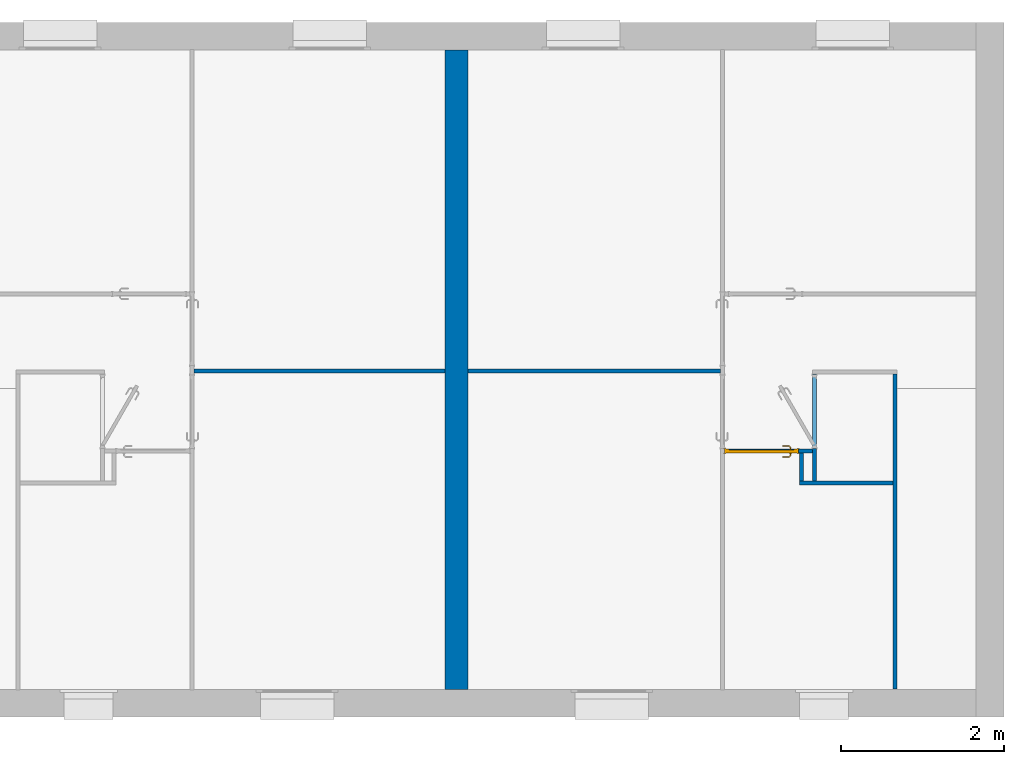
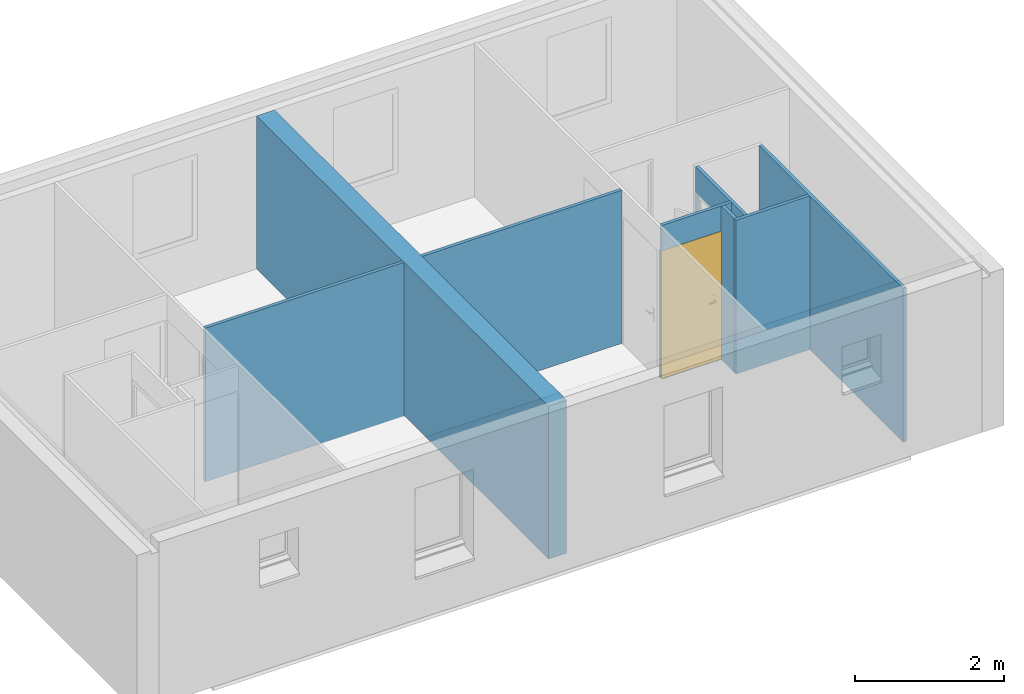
# One storey, part 7 of 13: 8 walls, 1 door, 2 openings.
"""IFC2X3 building model written with IfcOpenShell, lengths in metres."""

from ifc_helpers import new_model, entity, si_unit, converted_unit, derived_unit, direction, frame, frame_2d, origin, place, context, subcontext, project, spatial, rectangle, extrude, faceted_brep, source, transform, mapped, material, material_list, layer, layer_set, layer_usage, type_object, type_shapes, element, fill, save


model = new_model("IFC2X3")

# Units and contexts
model_context = context("Model", 3, precision=1e-05, world=origin(), true_north=direction((6.12303176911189e-17, 1.0)))
body_context = subcontext(model_context, "Body", "Model", "MODEL_VIEW")
ifc_project = project(units=[si_unit("LENGTHUNIT", "METRE"), si_unit("AREAUNIT", "SQUARE_METRE"), si_unit("VOLUMEUNIT", "CUBIC_METRE"), converted_unit("PLANEANGLEUNIT", "DEGREE", entity("IfcRatioMeasure", 0.0174532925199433), si_unit("PLANEANGLEUNIT", "RADIAN"), dimensions=[0, 0, 0, 0, 0, 0, 0]), si_unit("MASSUNIT", "GRAM", prefix="KILO"), si_unit("TIMEUNIT", "SECOND"), si_unit("FREQUENCYUNIT", "HERTZ"), si_unit("THERMODYNAMICTEMPERATUREUNIT", "DEGREE_CELSIUS"), derived_unit("THERMALTRANSMITTANCEUNIT", [(si_unit("MASSUNIT", "GRAM", prefix="KILO"), 1), (si_unit("THERMODYNAMICTEMPERATUREUNIT", "KELVIN"), -1), (si_unit("TIMEUNIT", "SECOND"), -3)]), derived_unit("VOLUMETRICFLOWRATEUNIT", [(si_unit("LENGTHUNIT", "METRE"), 3), (si_unit("TIMEUNIT", "SECOND"), -1)]), si_unit("ELECTRICCURRENTUNIT", "AMPERE"), si_unit("ELECTRICVOLTAGEUNIT", "VOLT"), si_unit("POWERUNIT", "WATT"), si_unit("FORCEUNIT", "NEWTON", prefix="KILO"), si_unit("ILLUMINANCEUNIT", "LUX"), si_unit("LUMINOUSFLUXUNIT", "LUMEN"), si_unit("LUMINOUSINTENSITYUNIT", "CANDELA"), derived_unit("USERDEFINED", [(si_unit("MASSUNIT", "GRAM", prefix="KILO"), -1), (si_unit("LENGTHUNIT", "METRE"), -2), (si_unit("TIMEUNIT", "SECOND"), 3), (si_unit("LUMINOUSFLUXUNIT", "LUMEN"), 1)]), derived_unit("LINEARVELOCITYUNIT", [(si_unit("LENGTHUNIT", "METRE"), 1), (si_unit("TIMEUNIT", "SECOND"), -1)]), si_unit("PRESSUREUNIT", "PASCAL"), derived_unit("USERDEFINED", [(si_unit("LENGTHUNIT", "METRE"), -2), (si_unit("MASSUNIT", "GRAM", prefix="KILO"), 1), (si_unit("TIMEUNIT", "SECOND"), -2)])], contexts=[model_context])

# Site, building, storey
site_placement = place(None, origin())
site = spatial("IfcSite", under=ifc_project, at=site_placement, Name="Surface", CompositionType="ELEMENT")
building_placement = place(site_placement, origin())
building = spatial("IfcBuilding", under=site, at=building_placement, CompositionType="ELEMENT")
storey_placement = place(building_placement, frame((0.0, 0.0, 2.74)))
storey = spatial("IfcBuildingStorey", under=building, at=storey_placement, Name="Plan étage", CompositionType="ELEMENT", Elevation=2.74)

# Walls
ifc_material_1 = material(Name="Maçonnerie - Isolant(1)")
ifc_layer_1 = layer(ifc_material_1, 0.05)
ifc_layer_set_1 = layer_set([ifc_layer_1], Name="Mur de base:Int. plâtre 50 mm")
ifc_layer_usage_1 = layer_usage(ifc_layer_set_1, "AXIS2", "NEGATIVE", 0.025)
wall_type_1 = type_object("IfcWallType", Name="Mur de base:Int. plâtre 50 mm", PredefinedType="STANDARD", material=ifc_layer_set_1)
wall_1_placement = place(storey_placement, frame((-8.14608881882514, 1.41925578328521, -0.00999999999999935)))
element("IfcWallStandardCase", 1, at=wall_1_placement, inside=storey, type_object=wall_type_1, material=ifc_layer_usage_1, Name="Mur de base:Int. plâtre 50 mm", ObjectType="Mur de base:Int. plâtre 50 mm", context=body_context, shape_type="SweptSolid", body=[
    extrude(rectangle(XDim=3.07000000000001, YDim=0.05, at=frame_2d((1.53500000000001, 0.0), x_axis=(-1.0, 0.0))), origin(), (0.0, 0.0, 1.0), 2.51),
])
ifc_layer_usage_2 = layer_usage(ifc_layer_set_1, "AXIS2", "NEGATIVE", 0.025)
wall_2_placement = place(storey_placement, frame((0.403911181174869, 0.0492557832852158, -0.00999999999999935), z_axis=(0.0, 0.0, 1.0), x_axis=(-1.0, 0.0, 0.0)))
element("IfcWallStandardCase", 2, at=wall_2_placement, inside=storey, type_object=wall_type_1, material=ifc_layer_usage_2, Name="Mur de base:Int. plâtre 50 mm", ObjectType="Mur de base:Int. plâtre 50 mm", context=body_context, shape_type="SweptSolid", body=[
    extrude(rectangle(XDim=1.14499999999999, YDim=0.05, at=frame_2d((0.572499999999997, 0.0), x_axis=(-1.0, 0.0))), origin(), (0.0, 0.0, 1.0), 2.51),
])
ifc_layer_usage_3 = layer_usage(ifc_layer_set_1, "AXIS2", "NEGATIVE", 0.025)
wall_3_placement = place(storey_placement, frame((-4.79608881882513, 1.41925578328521, 0.0)))
element("IfcWallStandardCase", 3, at=wall_3_placement, inside=storey, type_object=wall_type_1, material=ifc_layer_usage_3, Name="Mur de base:Int. plâtre 50 mm", ObjectType="Mur de base:Int. plâtre 50 mm", context=body_context, shape_type="SweptSolid", body=[
    extrude(rectangle(XDim=3.09000000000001, YDim=0.05, at=frame_2d((1.545, 0.0), x_axis=(-1.0, 0.0))), origin(), (0.0, 0.0, 1.0), 2.5),
])
ifc_layer_usage_4 = layer_usage(ifc_layer_set_1, "AXIS2", "NEGATIVE", 0.025)
wall_4_placement = place(storey_placement, frame((0.428911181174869, 1.38425578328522, -0.00999999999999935), z_axis=(0.0, 0.0, 1.0), x_axis=(0.0, -1.0, 0.0)))
element("IfcWallStandardCase", 4, at=wall_4_placement, inside=storey, type_object=wall_type_1, material=ifc_layer_usage_4, Name="Mur de base:Int. plâtre 50 mm", ObjectType="Mur de base:Int. plâtre 50 mm", context=body_context, shape_type="SweptSolid", body=[
    extrude(rectangle(XDim=3.855, YDim=0.05, at=frame_2d((1.9275, 0.0), x_axis=(-1.0, 0.0))), origin(), (0.0, 0.0, 1.0), 2.51),
])

# Wall, opening
ifc_layer_usage_5 = layer_usage(ifc_layer_set_1, "AXIS2", "NEGATIVE", 0.025)
wall_5_placement = place(storey_placement, frame((-0.556088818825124, 0.0742557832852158, -0.00999999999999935), z_axis=(0.0, 0.0, 1.0), x_axis=(0.0, 1.0, 0.0)))
wall_5 = element("IfcWallStandardCase", 5, at=wall_5_placement, inside=storey, type_object=wall_type_1, material=ifc_layer_usage_5, Name="Mur de base:Int. plâtre 50 mm", ObjectType="Mur de base:Int. plâtre 50 mm", context=body_context, shape_type="SweptSolid", body=[
    extrude(rectangle(XDim=1.31, YDim=0.05, at=frame_2d((0.655000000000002, 0.0), x_axis=(-1.0, 0.0))), origin(), (0.0, 0.0, 1.0), 2.51),
])
opening_1_placement = place(wall_5_placement, frame((0.400000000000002, -0.025, 0.00999999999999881)))
element("IfcOpeningElement", 6, at=opening_1_placement, cuts=wall_5, Name="Int. Simple:PP (0.83m x 2.04m):1", ObjectType="Opening", context=body_context, shape_type="SweptSolid", body=[
    extrude(rectangle(XDim=2.075, YDim=0.9, at=frame_2d((1.0375, 0.45), x_axis=(1.0, 0.0))), frame((0.0, 0.0, 0.0), z_axis=(0.0, 1.0, 0.0), x_axis=(0.0, 0.0, 1.0)), (0.0, 0.0, 1.0), 0.05),
])

# Wall, opening, door
ifc_layer_usage_6 = layer_usage(ifc_layer_set_1, "AXIS2", "NEGATIVE", 0.025)
wall_6_placement = place(storey_placement, frame((-1.65608881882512, 0.439255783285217, -0.00999999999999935)))
wall_6 = element("IfcWallStandardCase", 7, at=wall_6_placement, inside=storey, type_object=wall_type_1, material=ifc_layer_usage_6, Name="Mur de base:Int. plâtre 50 mm", ObjectType="Mur de base:Int. plâtre 50 mm", context=body_context, shape_type="SweptSolid", body=[
    extrude(rectangle(XDim=1.075, YDim=0.05, at=frame_2d((0.537499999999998, 0.0), x_axis=(-1.0, 0.0))), origin(), (0.0, 0.0, 1.0), 2.51),
])
opening_2_placement = place(wall_6_placement, frame((0.902499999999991, 0.025, 0.00999999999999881)))
opening_2 = element("IfcOpeningElement", 8, at=opening_2_placement, cuts=wall_6, Name="Int. Simple:PP (0.83m x 2.04m):1", ObjectType="Opening", context=body_context, shape_type="SweptSolid", body=[
    extrude(rectangle(XDim=2.075, YDim=0.9, at=frame_2d((1.0375, 0.45), x_axis=(1.0, 0.0))), frame((0.0, 0.0, 0.0), z_axis=(0.0, -1.0, 0.0), x_axis=(0.0, 0.0, 1.0)), (0.0, 0.0, 1.0), 0.05),
])
ifc_material_2 = material(Name="Finition Peinture - Blanc satiné")
ifc_material_3 = material(Name="Bois - Panneau de porte")
ifc_material_4 = material(Name="Bois - Cadre de porte")
ifc_material_list_1 = material_list([ifc_material_2, ifc_material_3, ifc_material_4])
ifc_material_list_2 = material_list([ifc_material_2, ifc_material_3, ifc_material_4])
door_style = type_object("IfcDoorStyle", Name="PP (0.83m x 2.04m)", ConstructionType="NOTDEFINED", OperationType="SINGLE_SWING_RIGHT", ParameterTakesPrecedence=False, Sizeable=False, material=ifc_material_list_2)
shared_shape = source(origin(), body_context, "Body", "Brep", [
    faceted_brep([(0.895000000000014, -0.00500000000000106, 0.870000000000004), (0.895000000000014, -0.00500000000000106, 1.08), (0.885352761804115, -0.00500000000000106, 1.08399601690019), (0.875000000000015, -0.00500000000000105, 1.08535898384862), (0.864647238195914, -0.00500000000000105, 1.08399601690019), (0.855000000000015, -0.00500000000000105, 1.08), (0.855000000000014, -0.00500000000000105, 0.870000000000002), (0.864647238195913, -0.00500000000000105, 0.866003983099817), (0.875000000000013, -0.00500000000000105, 0.86464101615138), (0.885352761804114, -0.00500000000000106, 0.866003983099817), (0.895000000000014, 0.0, 1.08), (0.895000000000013, 0.0, 0.870000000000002), (0.885352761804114, 0.0, 0.866003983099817), (0.875000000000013, 0.0, 0.86464101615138), (0.864647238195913, 0.0, 0.866003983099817), (0.855000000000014, 0.0, 0.870000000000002), (0.855000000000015, 0.0, 1.08), (0.864647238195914, 0.0, 1.08399601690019), (0.875000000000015, 0.0, 1.08535898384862), (0.885352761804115, 0.0, 1.08399601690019)], [[[0, 1, 2, 3, 4, 5, 6, 7, 8, 9]], [[10, 11, 12, 13, 14, 15, 16, 17, 18, 19]], [[9, 12, 11, 0]], [[8, 13, 12, 9]], [[7, 14, 13, 8]], [[7, 6, 15, 14]], [[15, 6, 5, 16]], [[4, 17, 16, 5]], [[3, 18, 17, 4]], [[2, 19, 18, 3]], [[2, 1, 10, 19]], [[11, 10, 1, 0]]]),
    faceted_brep([(0.895000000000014, 0.0399999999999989, 0.870000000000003), (0.895000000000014, 0.0399999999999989, 1.08), (0.885352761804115, 0.0399999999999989, 1.08399601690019), (0.875000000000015, 0.0399999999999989, 1.08535898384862), (0.864647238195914, 0.0399999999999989, 1.08399601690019), (0.855000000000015, 0.0399999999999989, 1.08), (0.855000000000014, 0.0399999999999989, 0.870000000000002), (0.864647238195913, 0.0399999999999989, 0.866003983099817), (0.875000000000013, 0.0399999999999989, 0.86464101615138), (0.885352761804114, 0.0399999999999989, 0.866003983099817), (0.875000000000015, 0.0449999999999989, 1.08535898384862), (0.885352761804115, 0.0449999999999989, 1.08399601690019), (0.895000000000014, 0.0449999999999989, 1.08), (0.895000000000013, 0.0449999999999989, 0.870000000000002), (0.885352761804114, 0.0449999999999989, 0.866003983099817), (0.875000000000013, 0.0449999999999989, 0.86464101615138), (0.864647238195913, 0.0449999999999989, 0.866003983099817), (0.855000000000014, 0.0449999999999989, 0.870000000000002), (0.855000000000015, 0.0449999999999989, 1.08), (0.864647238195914, 0.0449999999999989, 1.08399601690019)], [[[0, 1, 2, 3, 4, 5, 6, 7, 8, 9]], [[10, 11, 12, 13, 14, 15, 16, 17, 18, 19]], [[4, 19, 18, 5]], [[3, 10, 19, 4]], [[2, 11, 10, 3]], [[2, 1, 12, 11]], [[13, 12, 1, 0]], [[9, 14, 13, 0]], [[8, 15, 14, 9]], [[7, 16, 15, 8]], [[7, 6, 17, 16]], [[17, 6, 5, 18]]]),
    faceted_brep([(0.872974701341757, -0.0050000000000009, 1.00778044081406), (0.877025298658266, -0.00500000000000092, 1.00778044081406), (0.881000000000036, -0.00500000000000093, 1.00699999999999), (0.881000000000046, -0.00500000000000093, 0.992999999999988), (0.877025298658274, -0.00500000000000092, 0.99221955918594), (0.872974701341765, -0.0050000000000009, 0.992219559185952), (0.868999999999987, -0.00500000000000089, 0.993000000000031), (0.868999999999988, -0.00500000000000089, 1.007), (0.877025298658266, -0.0310045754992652, 1.00778044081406), (0.881000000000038, -0.0326509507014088, 1.007), (0.872974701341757, -0.0293267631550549, 1.00778044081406), (0.859298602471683, -0.0430028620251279, 1.00778044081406), (0.860976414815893, -0.0470534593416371, 1.00778044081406), (0.868999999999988, -0.0276803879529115, 1.007), (0.868999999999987, -0.0276803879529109, 0.993000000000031), (0.872974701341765, -0.0293267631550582, 0.992219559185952), (0.877025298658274, -0.0310045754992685, 0.99221955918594), (0.860976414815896, -0.047053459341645, 0.99221955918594), (0.859298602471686, -0.0430028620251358, 0.992219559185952), (0.881000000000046, -0.0326509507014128, 0.992999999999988), (0.862622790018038, -0.0510281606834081, 1.007), (0.85765222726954, -0.0390281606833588, 1.007), (0.857652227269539, -0.0390281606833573, 0.993000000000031), (0.862622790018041, -0.0510281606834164, 0.992999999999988), (0.774981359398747, -0.0510281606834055, 1.007), (0.774981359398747, -0.0470534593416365, 1.00778044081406), (0.774981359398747, -0.0430028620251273, 1.00778044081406), (0.774981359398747, -0.0390281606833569, 1.00699999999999), (0.774981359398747, -0.0390281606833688, 0.993000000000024), (0.774981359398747, -0.0430028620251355, 0.992219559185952), (0.774981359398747, -0.0470534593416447, 0.99221955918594), (0.774981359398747, -0.0510281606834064, 0.992999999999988), (0.81713998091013, -0.045028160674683, 1.0078786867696), (0.822692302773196, -0.051028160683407, 1.007), (0.816316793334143, -0.039028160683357, 1.007), (0.816316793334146, -0.0390281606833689, 0.993000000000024), (0.817139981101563, -0.0450281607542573, 0.992121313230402), (0.822692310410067, -0.0510281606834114, 0.992999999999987)], [[[0, 1, 2, 3, 4, 5, 6, 7]], [[2, 1, 8, 9]], [[1, 0, 10, 11, 12, 8]], [[0, 7, 13, 10]], [[14, 13, 7, 6]], [[5, 15, 14, 6]], [[5, 4, 16, 17, 18, 15]], [[3, 19, 16, 4]], [[9, 19, 3, 2]], [[9, 8, 12, 20]], [[10, 13, 21, 11]], [[22, 21, 13, 14]], [[14, 15, 18, 22]], [[16, 19, 23, 17]], [[20, 23, 19, 9]], [[24, 25, 26, 27, 28, 29, 30, 31]], [[32, 25, 33]], [[33, 25, 24]], [[33, 20, 12]], [[11, 34, 32]], [[34, 11, 21]], [[27, 26, 34]], [[32, 26, 25]], [[32, 34, 26]], [[32, 33, 12]], [[11, 32, 12]], [[21, 22, 35, 28, 27, 34]], [[36, 29, 35]], [[30, 36, 37]], [[18, 35, 22]], [[29, 28, 35]], [[30, 37, 31]], [[37, 17, 23]], [[36, 17, 37]], [[36, 18, 17]], [[36, 35, 18]], [[29, 36, 30]], [[23, 20, 33, 24, 31, 37]]]),
    faceted_brep([(0.872974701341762, 0.0449999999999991, 0.992219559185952), (0.877025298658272, 0.0449999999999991, 0.99221955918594), (0.881000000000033, 0.044999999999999, 0.992999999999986), (0.881000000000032, 0.044999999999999, 1.007), (0.877025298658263, 0.0449999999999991, 1.00778044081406), (0.872974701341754, 0.0449999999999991, 1.00778044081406), (0.868999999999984, 0.0449999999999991, 1.007), (0.868999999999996, 0.0449999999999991, 0.993000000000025), (0.868999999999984, 0.067485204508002, 1.007), (0.868999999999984, 0.0674852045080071, 0.993000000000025), (0.872974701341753, 0.0691315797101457, 1.00778044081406), (0.877025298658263, 0.070809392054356, 1.00778044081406), (0.860838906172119, 0.0869957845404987, 1.00778044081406), (0.859161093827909, 0.0829451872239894, 1.00778044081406), (0.881000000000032, 0.0724557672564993, 1.007), (0.881000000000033, 0.0724557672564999, 0.992999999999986), (0.877025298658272, 0.0708093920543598, 0.99221955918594), (0.872974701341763, 0.0691315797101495, 0.992219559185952), (0.859161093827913, 0.0829451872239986, 0.992219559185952), (0.860838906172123, 0.0869957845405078, 0.99221955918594), (0.857514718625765, 0.0789704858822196, 1.007), (0.857514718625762, 0.0789704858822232, 0.993000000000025), (0.862485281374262, 0.0909704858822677, 1.007), (0.862485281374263, 0.0909704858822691, 0.992999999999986), (0.77495421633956, 0.0829451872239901, 1.00778044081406), (0.77495421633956, 0.0869957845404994, 1.00778044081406), (0.77495421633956, 0.0909704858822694, 1.007), (0.77495421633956, 0.0909704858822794, 0.992999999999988), (0.77495421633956, 0.086995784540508, 0.99221955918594), (0.77495421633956, 0.0829451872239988, 0.992219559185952), (0.77495421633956, 0.0789704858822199, 0.993000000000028), (0.77495421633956, 0.0789704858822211, 1.007), (0.816234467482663, 0.0789704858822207, 1.007), (0.816234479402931, 0.0789704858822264, 0.993000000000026), (0.817057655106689, 0.0849704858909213, 1.0078786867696), (0.822554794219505, 0.0909704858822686, 1.007), (0.822554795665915, 0.0909704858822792, 0.992999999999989), (0.817057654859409, 0.0849704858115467, 0.992121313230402)], [[[0, 1, 2, 3, 4, 5, 6, 7]], [[8, 9, 7, 6]], [[5, 10, 8, 6]], [[5, 4, 11, 12, 13, 10]], [[3, 14, 11, 4]], [[14, 3, 2, 15]], [[2, 1, 16, 15]], [[1, 0, 17, 18, 19, 16]], [[0, 7, 9, 17]], [[20, 21, 9, 8]], [[8, 10, 13, 20]], [[14, 22, 12, 11]], [[23, 22, 14, 15]], [[15, 16, 19, 23]], [[17, 9, 21, 18]], [[24, 25, 26, 27, 28, 29, 30, 31]], [[21, 20, 32, 31, 30, 33]], [[34, 24, 32]], [[25, 34, 35]], [[13, 32, 20]], [[24, 31, 32]], [[25, 35, 26]], [[35, 12, 22]], [[34, 12, 35]], [[34, 13, 12]], [[34, 32, 13]], [[24, 34, 25]], [[22, 23, 36, 27, 26, 35]], [[37, 28, 36]], [[36, 28, 27]], [[36, 23, 19]], [[18, 33, 37]], [[33, 18, 21]], [[30, 29, 33]], [[37, 29, 28]], [[37, 33, 29]], [[37, 36, 19]], [[18, 37, 19]]]),
    faceted_brep([(0.935000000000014, 0.04, 2.04), (0.935000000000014, 0.04, 0.0), (0.105000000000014, 0.04, 0.0), (0.105000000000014, 0.04, 2.04), (0.935000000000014, 0.0, 2.04), (0.105000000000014, 0.0, 2.04), (0.105000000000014, 0.0, 0.0), (0.935000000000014, 0.0, 0.0)], [[[0, 1, 2, 3]], [[4, 5, 6, 7]], [[3, 5, 4, 0]], [[2, 6, 5, 3]], [[1, 7, 6, 2]], [[0, 4, 7, 1]]]),
    faceted_brep([(0.970000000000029, 0.0, 0.0), (0.935000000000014, 0.0, 0.0), (0.935000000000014, 0.040000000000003, 0.0), (0.920000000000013, 0.040000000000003, 0.0), (0.920000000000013, 0.050000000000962, 0.0), (0.970000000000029, 0.050000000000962, 0.0), (0.970000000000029, 0.050000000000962, 2.07500000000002), (0.970000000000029, 0.0, 2.07500000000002), (0.920000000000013, 0.050000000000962, 2.025), (0.120000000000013, 0.050000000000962, 2.025), (0.120000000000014, 0.050000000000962, 0.0), (0.0699999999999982, 0.050000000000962, 0.0), (0.0699999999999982, 0.050000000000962, 2.07500000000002), (0.920000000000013, 0.040000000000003, 2.025), (0.935000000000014, 0.040000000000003, 2.04), (0.105000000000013, 0.040000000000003, 2.04), (0.105000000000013, 0.040000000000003, 0.0), (0.120000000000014, 0.040000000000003, 0.0), (0.120000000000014, 0.040000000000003, 2.025), (0.935000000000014, 0.0, 2.04), (0.069999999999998, 0.0, 2.07500000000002), (0.0699999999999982, 0.0, 0.0), (0.105000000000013, 0.0, 0.0), (0.105000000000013, 0.0, 2.04)], [[[0, 1, 2, 3, 4, 5]], [[5, 6, 7, 0]], [[4, 8, 9, 10, 11, 12, 6, 5]], [[3, 13, 8, 4]], [[2, 14, 15, 16, 17, 18, 13, 3]], [[1, 19, 14, 2]], [[0, 7, 20, 21, 22, 23, 19, 1]], [[12, 11, 21, 20]], [[21, 11, 10, 17, 16, 22]], [[18, 17, 10, 9]], [[23, 22, 16, 15]], [[6, 12, 20, 7]], [[13, 18, 9, 8]], [[19, 23, 15, 14]]]),
    faceted_brep([(0.955000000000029, 0.050000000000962, 0.0), (0.955000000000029, 0.055000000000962, 0.0), (0.985000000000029, 0.055000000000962, 0.0), (0.985000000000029, 0.050000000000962, 0.0), (0.985000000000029, 0.050000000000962, 2.09000000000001), (0.0550000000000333, 0.050000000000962, 2.09000000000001), (0.0550000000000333, 0.050000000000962, 0.0), (0.0850000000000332, 0.050000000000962, 0.0), (0.0850000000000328, 0.050000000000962, 2.06000000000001), (0.955000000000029, 0.050000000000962, 2.06000000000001), (0.985000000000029, 0.055000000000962, 2.09000000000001), (0.955000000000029, 0.055000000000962, 2.06000000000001), (0.0850000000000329, 0.055000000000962, 2.06000000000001), (0.0850000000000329, 0.055000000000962, 0.0), (0.055000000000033, 0.055000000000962, 0.0), (0.0550000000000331, 0.055000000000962, 2.09000000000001)], [[[0, 1, 2, 3]], [[3, 4, 5, 6, 7, 8, 9, 0]], [[2, 10, 4, 3]], [[1, 11, 12, 13, 14, 15, 10, 2]], [[0, 9, 11, 1]], [[7, 6, 14, 13]], [[8, 7, 13, 12]], [[15, 14, 6, 5]], [[10, 15, 5, 4]], [[9, 8, 12, 11]]]),
    faceted_brep([(0.985000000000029, -0.005, 0.0), (0.985000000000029, -0.005, 2.09000000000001), (0.0550000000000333, -0.005, 2.09000000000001), (0.0550000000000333, -0.005, 0.0), (0.0850000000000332, -0.005, 0.0), (0.0850000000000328, -0.005, 2.06000000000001), (0.955000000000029, -0.005, 2.06000000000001), (0.955000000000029, -0.005, 0.0), (0.985000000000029, 0.0, 0.0), (0.985000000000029, 0.0, 2.09000000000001), (0.955000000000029, 0.0, 0.0), (0.955000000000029, 0.0, 2.06000000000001), (0.0850000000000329, 0.0, 2.06000000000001), (0.0850000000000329, 0.0, 0.0), (0.055000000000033, 0.0, 0.0), (0.0550000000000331, 0.0, 2.09000000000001)], [[[0, 1, 2, 3, 4, 5, 6, 7]], [[8, 9, 1, 0]], [[10, 11, 12, 13, 14, 15, 9, 8]], [[7, 6, 11, 10]], [[5, 4, 13, 12]], [[15, 14, 3, 2]], [[9, 15, 2, 1]], [[6, 5, 12, 11]], [[4, 3, 14, 13]], [[7, 10, 8, 0]]]),
])
type_shapes(door_style, [shared_shape])
door_placement = place(opening_2_placement, frame((-0.970000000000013, -0.05, 0.0)))
door = element("IfcDoor", 9, at=door_placement, inside=storey, type_object=door_style, material=ifc_material_list_1, Name="Int. Simple:PP (0.83m x 2.04m)", ObjectType="PP (0.83m x 2.04m)", OverallHeight=2.075, OverallWidth=0.9, context=body_context, shape_type="MappedRepresentation", body=[
    mapped(shared_shape, transform((0.0, 0.0, 0.0), scale=1.0)),
])
fill(opening_2, door)

# Walls
ifc_layer_usage_7 = layer_usage(ifc_layer_set_1, "AXIS2", "NEGATIVE", 0.025)
wall_7_placement = place(storey_placement, frame((-0.716088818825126, 0.0742557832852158, -0.00999999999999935), z_axis=(0.0, 0.0, 1.0), x_axis=(0.0, 1.0, 0.0)))
element("IfcWallStandardCase", 10, at=wall_7_placement, inside=storey, type_object=wall_type_1, material=ifc_layer_usage_7, Name="Mur de base:Int. plâtre 50 mm", ObjectType="Mur de base:Int. plâtre 50 mm", context=body_context, shape_type="SweptSolid", body=[
    extrude(rectangle(XDim=0.340000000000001, YDim=0.05, at=frame_2d((0.170000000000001, 0.0), x_axis=(-1.0, 0.0))), origin(), (0.0, 0.0, 1.0), 2.51),
])
ifc_material_5 = material(Name="Maçonnerie - Isolant 1")
ifc_layer_2 = layer(ifc_material_5, 0.01)
ifc_material_6 = material(Name="Maçonnerie - Bloc de béton (2)")
ifc_layer_3 = layer(ifc_material_6, 0.2)
ifc_material_7 = material(Name="Maçonnerie - Isolant")
ifc_layer_4 = layer(ifc_material_7, 0.06)
ifc_layer_5 = layer(ifc_material_5, 0.01)
ifc_layer_set_2 = layer_set([ifc_layer_2, ifc_layer_3, ifc_layer_4, ifc_layer_5], Name="Mur de base:Mur de base Refend Ext. Parpaing 20 + Isolant 7")
ifc_layer_usage_8 = layer_usage(ifc_layer_set_2, "AXIS2", "NEGATIVE", 0.14)
wall_type_2 = type_object("IfcWallType", Name="Mur de base:Mur de base Refend Ext. Parpaing 20 + Isolant 7", PredefinedType="STANDARD", material=ifc_layer_set_2)
wall_8_placement = place(storey_placement, frame((-4.93608881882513, 5.34425578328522, 0.0), z_axis=(0.0, 0.0, 1.0), x_axis=(0.0, -1.0, 0.0)))
element("IfcWallStandardCase", 11, at=wall_8_placement, inside=storey, type_object=wall_type_2, material=ifc_layer_usage_8, Name="Mur de base:Mur de base Refend Ext. Parpaing 20 + Isolant 7", ObjectType="Mur de base:Mur de base Refend Ext. Parpaing 20 + Isolant 7", context=body_context, shape_type="SweptSolid", body=[
    extrude(rectangle(XDim=7.82000000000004, YDim=0.28, at=frame_2d((3.91000000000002, 2.77555756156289e-16), x_axis=(-1.0, 0.0))), origin(), (0.0, 0.0, 1.0), 2.5),
])

save(model, "model.ifc")
